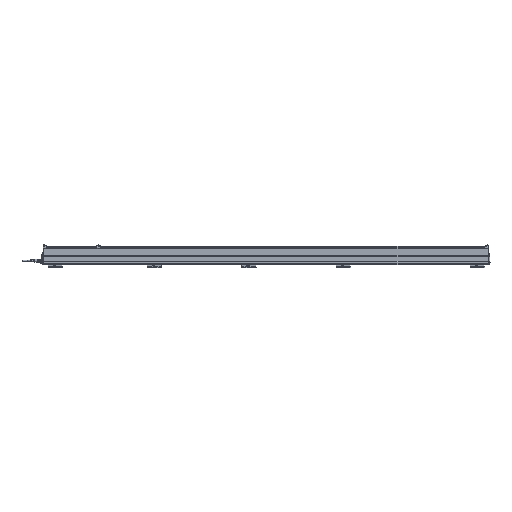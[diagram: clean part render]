
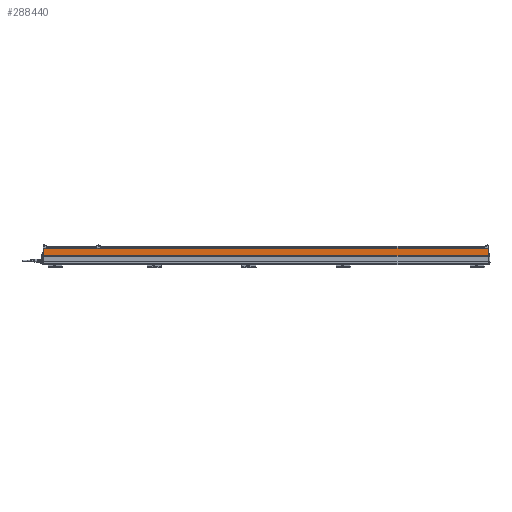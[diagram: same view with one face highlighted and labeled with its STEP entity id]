
A CAD part, front view. The second image highlights one B-rep face of the part: STEP entity #288440.
In plain terms, the highlighted planar face has unit normal (0, -1, 0) as drawn and (0, 1, 0) by its records, which use the part's own axes.
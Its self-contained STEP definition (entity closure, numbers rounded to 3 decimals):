
#103021=ORIENTED_EDGE('',*,*,#146657,.F.);
#103022=ORIENTED_EDGE('',*,*,#146622,.F.);
#103023=ORIENTED_EDGE('',*,*,#146656,.F.);
#103024=ORIENTED_EDGE('',*,*,#146561,.F.);
#125961=VECTOR('',#169133,1.);
#125988=VECTOR('',#169234,1.);
#126018=VECTOR('',#169328,1.);
#126019=VECTOR('',#169331,1.);
#132538=LINE('',#192981,#125961);
#132565=LINE('',#193104,#125988);
#132595=LINE('',#193170,#126018);
#132596=LINE('',#193172,#126019);
#139126=VERTEX_POINT('',#192978);
#139127=VERTEX_POINT('',#192980);
#139185=VERTEX_POINT('',#193101);
#139186=VERTEX_POINT('',#193103);
#146561=EDGE_CURVE('',#139126,#139127,#132538,.T.);
#146622=EDGE_CURVE('',#139185,#139186,#132565,.T.);
#146656=EDGE_CURVE('',#139127,#139185,#132595,.T.);
#146657=EDGE_CURVE('',#139186,#139126,#132596,.T.);
#158158=EDGE_LOOP('',(#103021,#103022,#103023,#103024));
#163546=FACE_BOUND('',#158158,.T.);
#169133=DIRECTION('',(36.287,0.,0.));
#169234=DIRECTION('',(-36.287,0.,0.));
#169328=DIRECTION('',(0.,0.,2160.));
#169329=DIRECTION('',(0.,1.,0.));
#169330=DIRECTION('',(1.,0.,0.));
#169331=DIRECTION('',(0.,0.,-2160.));
#192978=CARTESIAN_POINT('',(-29.322,15.,-2035.));
#192980=CARTESIAN_POINT('',(6.965,15.,-2035.));
#192981=CARTESIAN_POINT('',(-29.322,15.,-2035.));
#193101=CARTESIAN_POINT('',(6.965,15.,125.));
#193103=CARTESIAN_POINT('',(-29.322,15.,125.));
#193104=CARTESIAN_POINT('',(6.965,15.,125.));
#193170=CARTESIAN_POINT('',(6.965,15.,-2035.));
#193171=CARTESIAN_POINT('',(-29.322,15.,125.));
#193172=CARTESIAN_POINT('',(-29.322,15.,125.));
#277836=AXIS2_PLACEMENT_3D('',#193171,#169329,#169330);
#286351=PLANE('',#277836);
#288440=ADVANCED_FACE('',(#163546),#286351,.T.);
